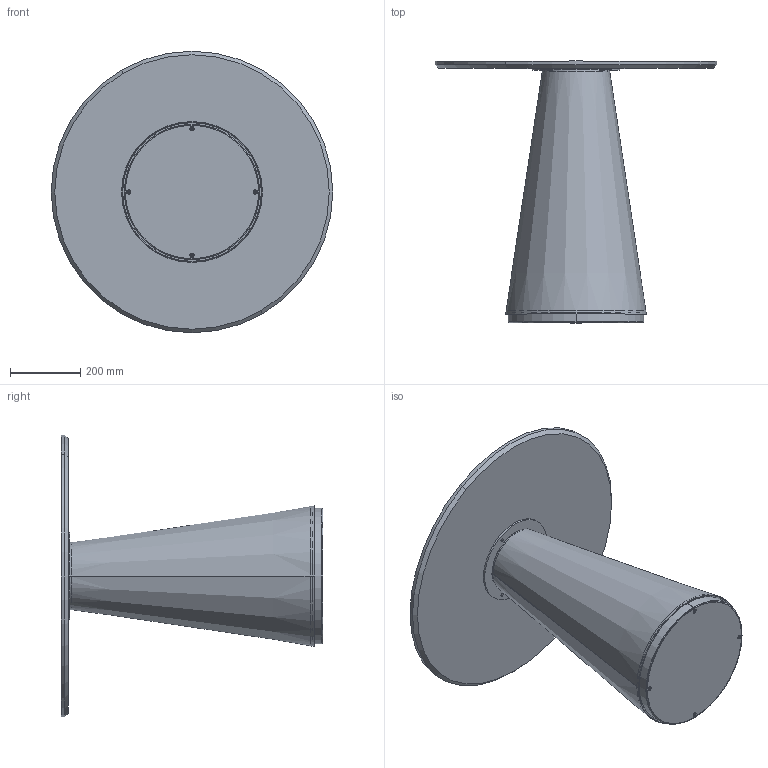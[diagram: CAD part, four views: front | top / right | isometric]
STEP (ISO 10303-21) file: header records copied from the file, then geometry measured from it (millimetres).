
FILE_DESCRIPTION (( 'STEP AP203' ), '1' );
FILE_NAME ('TE20M.STEP', '2024-08-08T07:47:09', ( '' ), ( '' ), 'SwSTEP 2.0', 'SolidWorks 2022', '' );
FILE_SCHEMA (( 'CONFIG_CONTROL_DESIGN' ));
Length unit declared in the file: millimetre
Products named in the file (8): TED000000PIA-00-TED PIASTRA SOPRA; TE20M; M6xXXmm_HEX_M6x40mm HEX; TED000000BAS_01-00-TED PIASTRA; TED000000TCONO-00-TED CONO; M0X-00- D. piani marmo_D.800; Assieme BASE TED; M6xXXmm_HEX_M6x20mm HEX
Assembly tree (13 placements, depth 3):
  TE20M
    M0X-00- D. piani marmo_D.800
    Assieme BASE TED
      TED000000BAS_01-00-TED PIASTRA
      TED000000PIA-00-TED PIASTRA SOPRA
      TED000000TCONO-00-TED CONO
      M6xXXmm_HEX_M6x20mm HEX  x4
      M6xXXmm_HEX_M6x40mm HEX  x4
Bounding box: 800 x 743.5 x 800 mm (x, y, z)
Volume: 11311510 mm3; surface area: 2847095.8 mm2
Topology: 14 solids, 14 shells, 376 faces, 795 edges, 436 vertices
Faces by surface type: plane 175, cylinder 111, cone 70, torus 20
Entity records: 5845 total; most frequent: DIRECTION 965, CARTESIAN_POINT 790, ORIENTED_EDGE 750, AXIS2_PLACEMENT_3D 401, EDGE_CURVE 375, VERTEX_POINT 226, EDGE_LOOP 223, CIRCLE 212
